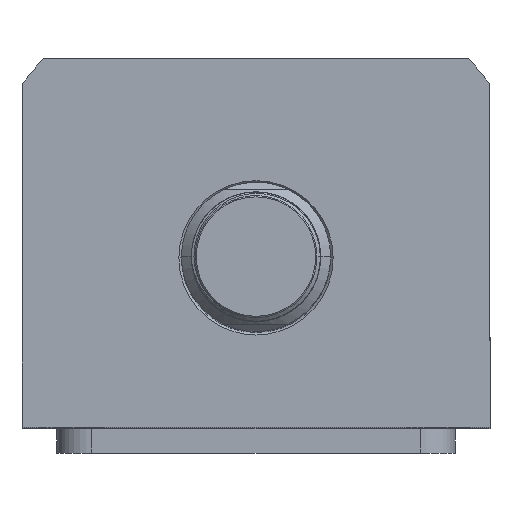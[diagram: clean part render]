
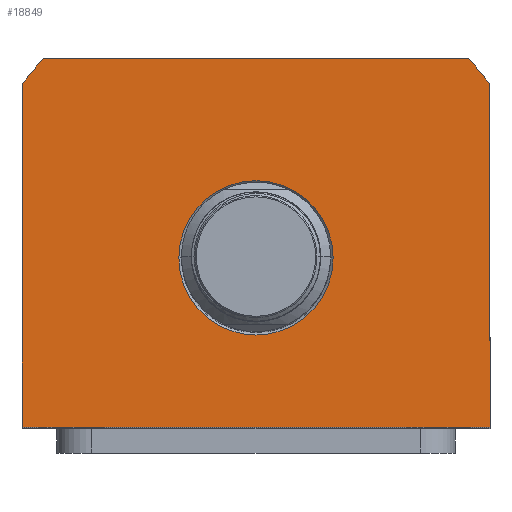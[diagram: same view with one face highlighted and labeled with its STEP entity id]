
A CAD part, top view. The second image highlights one B-rep face of the part: STEP entity #18849.
In plain terms, the highlighted planar face has unit normal (0, 0, 1).
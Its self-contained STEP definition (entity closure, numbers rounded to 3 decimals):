
#298 = EDGE_CURVE ( 'NONE', #5378, #18029, #14284, .T. ) ;
#534 = CARTESIAN_POINT ( 'NONE',  ( 0., 0., 87.5 ) ) ;
#626 = ORIENTED_EDGE ( 'NONE', *, *, #298, .T. ) ;
#1379 = VERTEX_POINT ( 'NONE', #16720 ) ;
#1504 = CARTESIAN_POINT ( 'NONE',  ( 47., -34., 87.5 ) ) ;
#1792 = CARTESIAN_POINT ( 'NONE',  ( -42.688, 40., 87.5 ) ) ;
#1993 = CARTESIAN_POINT ( 'NONE',  ( 47., 34.832, 87.5 ) ) ;
#2106 = VECTOR ( 'NONE', #15641, 1000. ) ;
#2829 = CARTESIAN_POINT ( 'NONE',  ( -42.688, 40., 87.5 ) ) ;
#3505 = EDGE_CURVE ( 'NONE', #18029, #10425, #9632, .T. ) ;
#3678 = FACE_BOUND ( 'NONE', #18255, .T. ) ;
#3795 = CARTESIAN_POINT ( 'NONE',  ( 15.5, 0., 87.5 ) ) ;
#4406 = AXIS2_PLACEMENT_3D ( 'NONE', #8255, #18945, #14287 ) ;
#4428 = ORIENTED_EDGE ( 'NONE', *, *, #11072, .T. ) ;
#4607 = AXIS2_PLACEMENT_3D ( 'NONE', #534, #14514, #11196 ) ;
#4735 = EDGE_CURVE ( 'NONE', #1379, #16446, #11999, .T. ) ;
#4884 = FACE_OUTER_BOUND ( 'NONE', #4959, .T. ) ;
#4959 = EDGE_LOOP ( 'NONE', ( #626, #8119, #16622, #8893, #11262, #4428 ) ) ;
#5028 = LINE ( 'NONE', #1792, #8578 ) ;
#5156 = CARTESIAN_POINT ( 'NONE',  ( 0., 0., 87.5 ) ) ;
#5378 = VERTEX_POINT ( 'NONE', #18498 ) ;
#5436 = AXIS2_PLACEMENT_3D ( 'NONE', #7648, #8918, #13682 ) ;
#5899 = DIRECTION ( 'NONE',  ( 1., 0., 0. ) ) ;
#6165 = LINE ( 'NONE', #6395, #2106 ) ;
#6322 = EDGE_CURVE ( 'NONE', #16446, #1379, #18158, .T. ) ;
#6395 = CARTESIAN_POINT ( 'NONE',  ( -47., -34., 87.5 ) ) ;
#7052 = CIRCLE ( 'NONE', #4607, 58.5 ) ;
#7648 = CARTESIAN_POINT ( 'NONE',  ( 0., 0., 87.5 ) ) ;
#7793 = CARTESIAN_POINT ( 'NONE',  ( 42.688, 40., 87.5 ) ) ;
#8105 = AXIS2_PLACEMENT_3D ( 'NONE', #13606, #9044, #12260 ) ;
#8119 = ORIENTED_EDGE ( 'NONE', *, *, #3505, .T. ) ;
#8255 = CARTESIAN_POINT ( 'NONE',  ( 0., 0., 87.5 ) ) ;
#8395 = DIRECTION ( 'NONE',  ( 1., 0., 0. ) ) ;
#8578 = VECTOR ( 'NONE', #9537, 1000. ) ;
#8893 = ORIENTED_EDGE ( 'NONE', *, *, #8920, .T. ) ;
#8918 = DIRECTION ( 'NONE',  ( 0., 0., 1. ) ) ;
#8920 = EDGE_CURVE ( 'NONE', #12201, #18522, #5028, .T. ) ;
#9044 = DIRECTION ( 'NONE',  ( 0., 0., -1. ) ) ;
#9165 = CIRCLE ( 'NONE', #12594, 58.5 ) ;
#9537 = DIRECTION ( 'NONE',  ( -1., 0., 0. ) ) ;
#9632 = LINE ( 'NONE', #1993, #12027 ) ;
#10425 = VERTEX_POINT ( 'NONE', #10990 ) ;
#10990 = CARTESIAN_POINT ( 'NONE',  ( 47., 34.832, 87.5 ) ) ;
#11072 = EDGE_CURVE ( 'NONE', #11170, #5378, #6165, .T. ) ;
#11170 = VERTEX_POINT ( 'NONE', #19403 ) ;
#11196 = DIRECTION ( 'NONE',  ( 1., 0., 0. ) ) ;
#11262 = ORIENTED_EDGE ( 'NONE', *, *, #17779, .T. ) ;
#11999 = CIRCLE ( 'NONE', #4406, 15.5 ) ;
#12027 = VECTOR ( 'NONE', #12733, 1000. ) ;
#12201 = VERTEX_POINT ( 'NONE', #7793 ) ;
#12260 = DIRECTION ( 'NONE',  ( 1., 0., 0. ) ) ;
#12594 = AXIS2_PLACEMENT_3D ( 'NONE', #5156, #19152, #8395 ) ;
#12733 = DIRECTION ( 'NONE',  ( 0., 1., 0. ) ) ;
#12951 = EDGE_CURVE ( 'NONE', #10425, #12201, #7052, .T. ) ;
#13606 = CARTESIAN_POINT ( 'NONE',  ( 0., 0., 87.5 ) ) ;
#13682 = DIRECTION ( 'NONE',  ( 1., 0., 0. ) ) ;
#14284 = LINE ( 'NONE', #1504, #18811 ) ;
#14287 = DIRECTION ( 'NONE',  ( 1., 0., 0. ) ) ;
#14514 = DIRECTION ( 'NONE',  ( 0., 0., 1. ) ) ;
#15363 = PLANE ( 'NONE',  #5436 ) ;
#15641 = DIRECTION ( 'NONE',  ( 0., -1., 0. ) ) ;
#16232 = CARTESIAN_POINT ( 'NONE',  ( 47., -34., 87.5 ) ) ;
#16446 = VERTEX_POINT ( 'NONE', #3795 ) ;
#16622 = ORIENTED_EDGE ( 'NONE', *, *, #12951, .T. ) ;
#16720 = CARTESIAN_POINT ( 'NONE',  ( -15.5, 0., 87.5 ) ) ;
#17779 = EDGE_CURVE ( 'NONE', #18522, #11170, #9165, .T. ) ;
#17848 = ORIENTED_EDGE ( 'NONE', *, *, #6322, .T. ) ;
#17902 = ORIENTED_EDGE ( 'NONE', *, *, #4735, .T. ) ;
#18029 = VERTEX_POINT ( 'NONE', #16232 ) ;
#18158 = CIRCLE ( 'NONE', #8105, 15.5 ) ;
#18255 = EDGE_LOOP ( 'NONE', ( #17848, #17902 ) ) ;
#18498 = CARTESIAN_POINT ( 'NONE',  ( -47., -34., 87.5 ) ) ;
#18522 = VERTEX_POINT ( 'NONE', #2829 ) ;
#18811 = VECTOR ( 'NONE', #5899, 1000. ) ;
#18849 = ADVANCED_FACE ( 'NONE', ( #3678, #4884 ), #15363, .T. ) ;
#18945 = DIRECTION ( 'NONE',  ( 0., 0., -1. ) ) ;
#19152 = DIRECTION ( 'NONE',  ( 0., 0., 1. ) ) ;
#19403 = CARTESIAN_POINT ( 'NONE',  ( -47., 34.832, 87.5 ) ) ;
